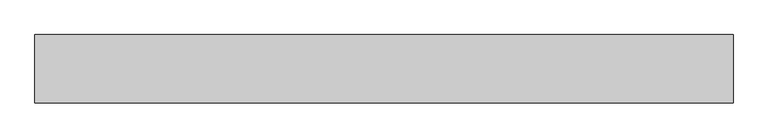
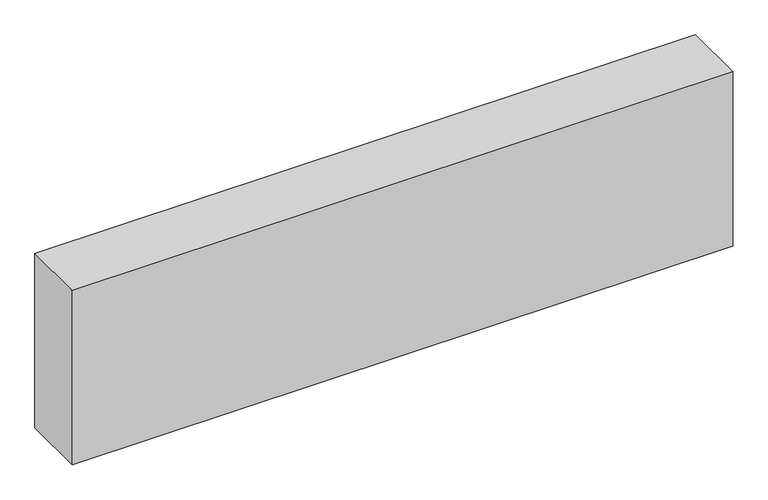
"""IFC4 building model written with IfcOpenShell, lengths in millimetres: proxy geometry."""

from ifc_helpers import new_model, si_unit, frame, origin, place, context, project, spatial, polyline, outline, extrude, source, transform, mapped, element, save


def structural_framing_7d851a28(model_context):
    return source(origin(), model_context, "Body", "SweptSolid", [
        extrude(outline(polyline([(-716.6, -70.0), (-716.6, 70.0), (716.6, 70.0), (716.6, -70.0), (-716.6, -70.0)])), frame((0.0, 0.0, -400.0), z_axis=(0.0, 0.0, 1.0), x_axis=(1.0, 0.0, 0.0)), (0.0, 0.0, 1.0), 400.0),
    ])


if __name__ == "__main__":
    model = new_model("IFC4")
    model_context = context("Model", 3, world=origin())
    ifc_project = project(units=[si_unit("LENGTHUNIT", "METRE", prefix="MILLI")], contexts=[model_context])
    site = spatial("IfcSite", under=ifc_project)
    building = spatial("IfcBuilding", under=site)
    placement = place(None, origin())
    structural_framing_shape = structural_framing_7d851a28(model_context)
    element("IfcBuildingElementProxy", 1, Name="Structural Framing", at=placement, inside=building, context=model_context, shape_type="MappedRepresentation", body=[
        mapped(structural_framing_shape, transform((0.0, 0.0, 0.0), x_axis=(1.0, 0.0, 0.0), y_axis=(0.0, 1.0, 0.0), z_axis=(0.0, 0.0, 1.0))),
    ])
    save(model, "model.ifc")
